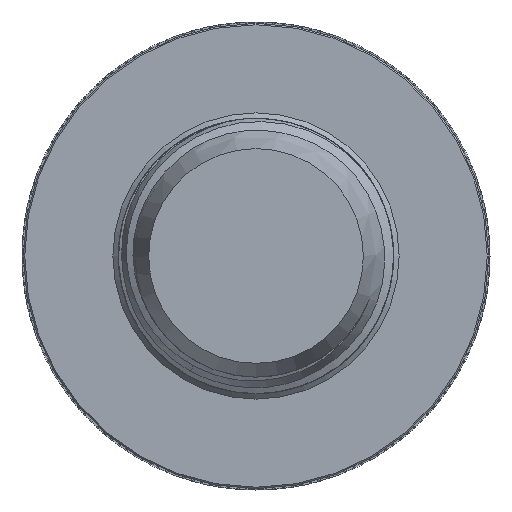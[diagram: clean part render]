
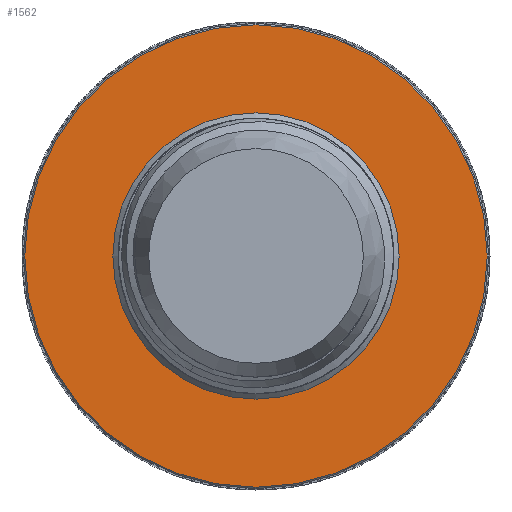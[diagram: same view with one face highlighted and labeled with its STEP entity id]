
A CAD part, front view. The second image highlights one B-rep face of the part: STEP entity #1562.
In plain terms, the highlighted planar face has unit normal (0, -1, 0).
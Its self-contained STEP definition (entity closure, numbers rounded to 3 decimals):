
#545=PLANE('',#11123);
#1562=ADVANCED_FACE('',(#4072,#4073),#545,.T.);
#4072=FACE_BOUND('',#4596,.T.);
#4073=FACE_BOUND('',#4597,.T.);
#4596=EDGE_LOOP('',(#7600));
#4597=EDGE_LOOP('',(#7601));
#7600=ORIENTED_EDGE('',*,*,#10104,.T.);
#7601=ORIENTED_EDGE('',*,*,#10105,.T.);
#8602=VERTEX_POINT('',#20338);
#8603=VERTEX_POINT('',#20341);
#10104=EDGE_CURVE('',#8602,#8602,#10274,.T.);
#10105=EDGE_CURVE('',#8603,#8603,#10275,.T.);
#10274=CIRCLE('',#11120,5.2);
#10275=CIRCLE('',#11122,8.4);
#11120=AXIS2_PLACEMENT_3D('',#20337,#13971,#13972);
#11122=AXIS2_PLACEMENT_3D('',#20340,#13975,#13976);
#11123=AXIS2_PLACEMENT_3D('',#20342,#13977,#13978);
#13971=DIRECTION('',(0.,1.,0.));
#13972=DIRECTION('',(0.,0.,1.));
#13975=DIRECTION('',(0.,-1.,0.));
#13976=DIRECTION('',(0.,0.,1.));
#13977=DIRECTION('',(0.,-1.,0.));
#13978=DIRECTION('',(0.,0.,1.));
#20337=CARTESIAN_POINT('',(0.,-10.,0.));
#20338=CARTESIAN_POINT('',(0.,-10.,5.2));
#20340=CARTESIAN_POINT('',(0.,-10.,0.));
#20341=CARTESIAN_POINT('',(0.,-10.,8.4));
#20342=CARTESIAN_POINT('',(0.,-10.,0.));
